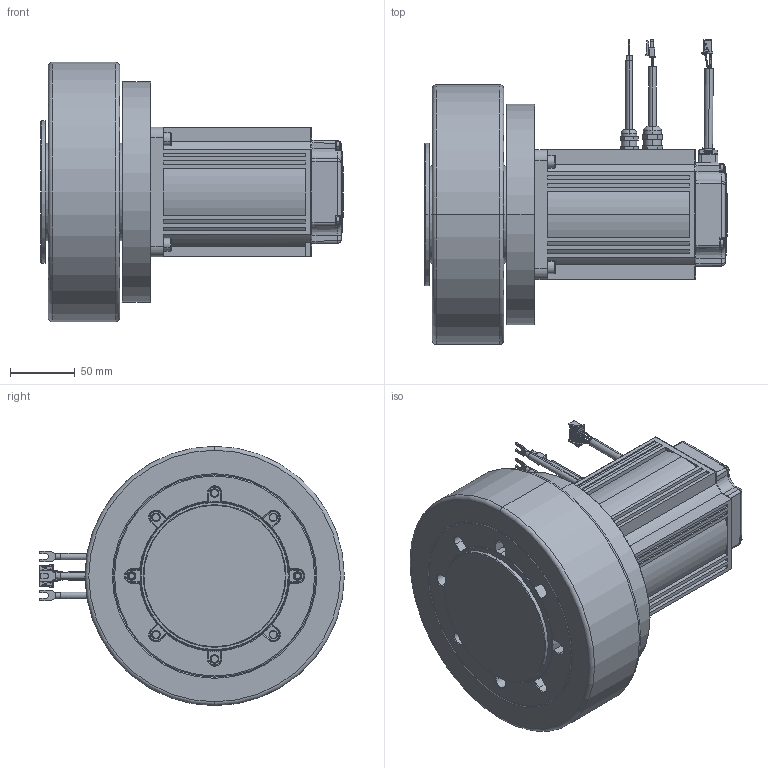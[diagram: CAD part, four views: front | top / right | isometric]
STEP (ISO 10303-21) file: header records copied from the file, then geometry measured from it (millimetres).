
FILE_DESCRIPTION((''),'2;1');
FILE_NAME('MSD200--100-20GSL-B_ASM','2026-06-11T11:45:19',('MS28159'),(''),'CREO PARAMETRIC BY PTC INC, 2018100','CREO PARAMETRIC BY PTC INC, 2018100','');
FILE_SCHEMA(('CONFIG_CONTROL_DESIGN'));
Length unit declared in the file: millimetre
Products named in the file (6): AEQ-115-H55-W200_1_1; AEQ-115C-020-10-22-95-115-M8_1; AEQ-115C-020-10-22-95-115-M8-H5_ASM; AEQ-115C-020-10-22-XX-95-115-M8_ASM; 100SVE04202-1000G-0001_ASM; MSD200--100-20GSL-B_ASM
Assembly tree (5 placements, depth 4):
  MSD200--100-20GSL-B_ASM
    AEQ-115C-020-10-22-XX-95-115-M8_ASM
      AEQ-115C-020-10-22-95-115-M8-H5_ASM
        AEQ-115-H55-W200_1_1
        AEQ-115C-020-10-22-95-115-M8_1
    100SVE04202-1000G-0001_ASM
Bounding box: 233.6 x 234.85 x 200 mm (x, y, z)
Volume: 2184635 mm3; surface area: 344869.9 mm2
Topology: 2 solids, 43 shells, 1808 faces, 4563 edges, 2879 vertices
Faces by surface type: plane 1025, cylinder 377, cone 245, torus 81, bspline 52, sphere 14, extrusion 14
Entity records: 58150 total; most frequent: CARTESIAN_POINT 14653, DIRECTION 9009, ORIENTED_EDGE 8874, EDGE_CURVE 4503, AXIS2_PLACEMENT_3D 3079, VERTEX_POINT 2879, VECTOR 2851, LINE 2837
